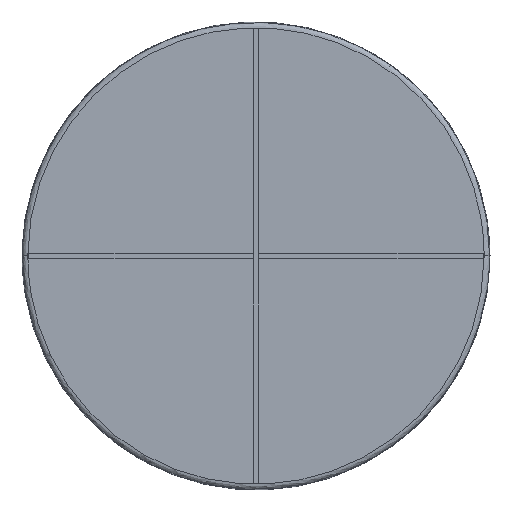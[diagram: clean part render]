
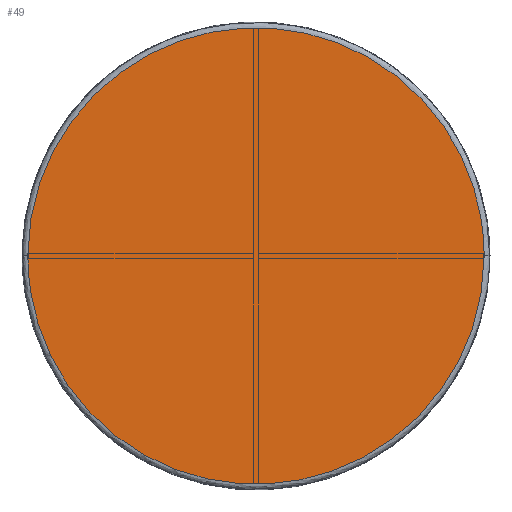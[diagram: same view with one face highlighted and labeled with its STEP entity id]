
A CAD part, top view. The second image highlights one B-rep face of the part: STEP entity #49.
In plain terms, the highlighted planar face has unit normal (0, 0, 1).
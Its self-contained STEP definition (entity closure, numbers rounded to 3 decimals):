
#49=ADVANCED_FACE('',(#185),#2072,.T.);
#185=FACE_OUTER_BOUND('',#318,.T.);
#318=EDGE_LOOP('',(#471,#472));
#471=ORIENTED_EDGE('',*,*,#1137,.F.);
#472=ORIENTED_EDGE('',*,*,#1140,.F.);
#1137=EDGE_CURVE('',#1815,#1814,#1719,.T.);
#1140=EDGE_CURVE('',#1814,#1815,#1722,.T.);
#1719=(
BOUNDED_CURVE()
B_SPLINE_CURVE(2,(#3256,#3257,#3258,#3259,#3260),.UNSPECIFIED.,.F.,.F.)
B_SPLINE_CURVE_WITH_KNOTS((3,2,3),(0.,681.641,1363.282),
 .UNSPECIFIED.)
CURVE()
GEOMETRIC_REPRESENTATION_ITEM()
RATIONAL_B_SPLINE_CURVE((1.,0.707,1.,0.707,1.))
REPRESENTATION_ITEM('')
);
#1722=(
BOUNDED_CURVE()
B_SPLINE_CURVE(2,(#3269,#3270,#3271,#3272,#3273),.UNSPECIFIED.,.F.,.F.)
B_SPLINE_CURVE_WITH_KNOTS((3,2,3),(1363.282,2044.924,2726.565),
 .UNSPECIFIED.)
CURVE()
GEOMETRIC_REPRESENTATION_ITEM()
RATIONAL_B_SPLINE_CURVE((1.,0.707,1.,0.707,1.))
REPRESENTATION_ITEM('')
);
#1814=VERTEX_POINT('',#3195);
#1815=VERTEX_POINT('',#3196);
#2072=PLANE('',#2516);
#2516=AXIS2_PLACEMENT_3D('',#2884,#2646,$);
#2646=DIRECTION('',(0.,0.,1.));
#2884=CARTESIAN_POINT('',(-526.356,-519.65,755.5));
#3195=CARTESIAN_POINT('',(428.446,1.205,755.5));
#3196=CARTESIAN_POINT('',(-439.446,1.205,755.5));
#3256=CARTESIAN_POINT('',(-439.446,1.205,755.5));
#3257=CARTESIAN_POINT('',(-439.446,435.152,755.5));
#3258=CARTESIAN_POINT('',(-5.5,435.152,755.5));
#3259=CARTESIAN_POINT('',(428.446,435.152,755.5));
#3260=CARTESIAN_POINT('',(428.446,1.205,755.5));
#3269=CARTESIAN_POINT('',(428.446,1.205,755.5));
#3270=CARTESIAN_POINT('',(428.446,-432.741,755.5));
#3271=CARTESIAN_POINT('',(-5.5,-432.741,755.5));
#3272=CARTESIAN_POINT('',(-439.446,-432.741,755.5));
#3273=CARTESIAN_POINT('',(-439.446,1.205,755.5));
